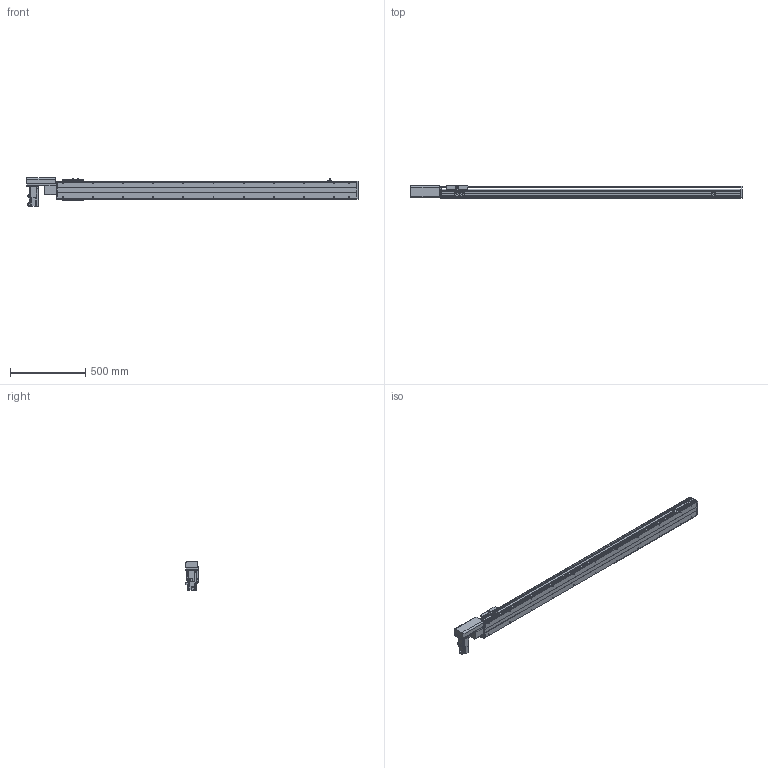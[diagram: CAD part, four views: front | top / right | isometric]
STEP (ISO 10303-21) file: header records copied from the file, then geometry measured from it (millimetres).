
FILE_DESCRIPTION(/* description */ ('STEP AP214'),/* implementation_level */ '2;1');
FILE_NAME(/* name */ 'PBS120-P40-S1700-R-T40-C1-N(0)',/* time_stamp */ '2022-06-06T02:08:23+02:00',/* author */ ('License CC BY-ND 4.0'),/* organization */ ('CADENAS'),/* preprocessor_version */ 'ST-DEVELOPER v18.102',/* originating_system */ 'PARTsolutions',/* authorisation */ ' ');
FILE_SCHEMA (('AUTOMOTIVE_DESIGN {1 0 10303 214 3 1 1}'));
Length unit declared in the file: millimetre
Products named in the file (7): PBS120-P40-S1700-R-T40-C1-N(0); PBS120_sensor; PBS120_plant; PBS120_sliser; T40-p1; PBS120T-R_motors; PBS120-S1700()_body
Assembly tree (8 placements, depth 2):
  PBS120-P40-S1700-R-T40-C1-N(0)
    PBS120_sensor  x3
    PBS120_plant
    PBS120_sliser
    T40-p1
    PBS120T-R_motors
    PBS120-S1700()_body
Bounding box: 2201 x 83 x 189.7 mm (x, y, z)
Volume: 8239656.5 mm3; surface area: 1666535 mm2
Topology: 8 solids, 8 shells, 846 faces, 2186 edges, 1405 vertices
Faces by surface type: plane 555, cylinder 235, cone 54, torus 2
Full cylindrical faces by diameter (mm): 2.459 x6, 3.242 x4, 4 x2, 4.134 x4, 4.5 x10, 4.917 x26, 5.5 x11, 6 x2, 6.6 x1, 7 x2, 8.5 x4, 9 x4, 12 x1, 14 x1, 30 x2, 40 x1, 50 x2
Entity records: 21954 total; most frequent: DIRECTION 3812, CARTESIAN_POINT 3731, ORIENTED_EDGE 3538, EDGE_CURVE 1769, AXIS2_PLACEMENT_3D 1292, LINE 1228, VECTOR 1228, VERTEX_POINT 1211
